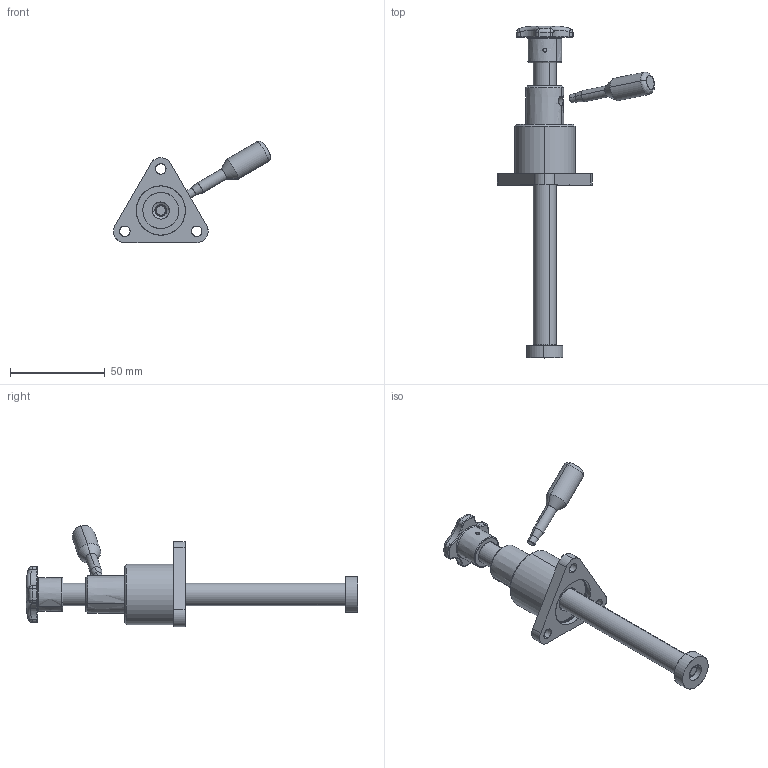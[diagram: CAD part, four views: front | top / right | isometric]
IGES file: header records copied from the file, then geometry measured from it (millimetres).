
Start section: SolidWorks IGES file using analytic representation for surfaces
Global section: file name: C:\Projetos\Grampos\Fusos\KFRF-12\KFRF-12.IGS; native system: SolidWorks 2014; preprocessor: SolidWorks 2014; author: Ricardo; date: 150720.110921; units: millimetre
Bounding box: 82.96 x 175.35 x 53.5 mm (x, y, z)
Surface area: 31028.8 mm2 (no closed solid volume)
Topology: 0 solids, 0 shells, 437 faces, 6111 edges, 6111 vertices
Faces by surface type: bspline 227, revolution 210
